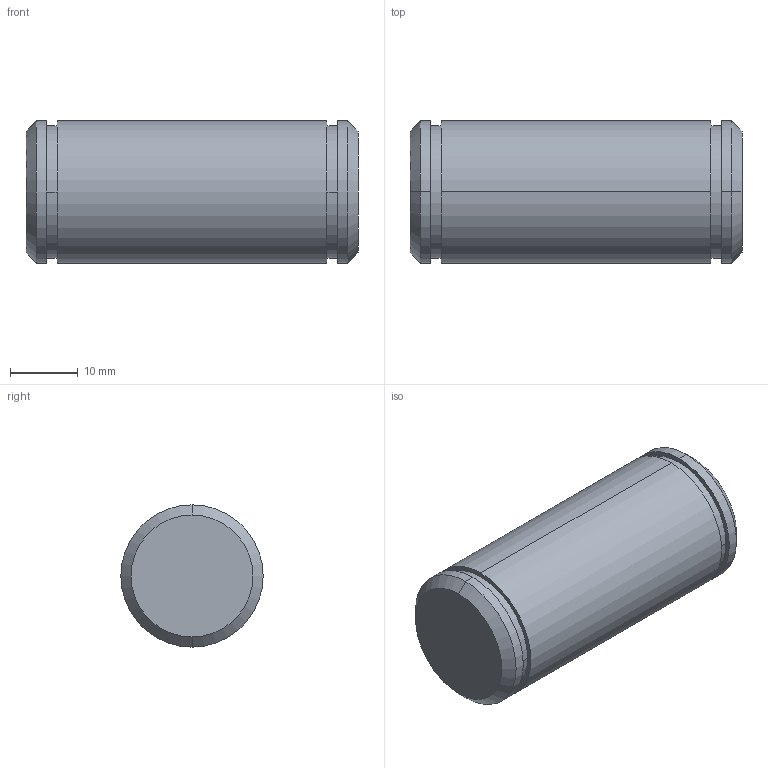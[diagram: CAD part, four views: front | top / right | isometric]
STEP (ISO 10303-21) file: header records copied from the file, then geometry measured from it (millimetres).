
FILE_DESCRIPTION (( 'STEP AP203' ), '1' );
FILE_NAME ('Bolzen Sicherungsring B M20.STEP', '2018-02-22T05:37:51', ( 'install' ), ( 'Hewlett-Packard Company' ), 'SwSTEP 2.0', 'SolidWorks 2017', '' );
FILE_SCHEMA (( 'CONFIG_CONTROL_DESIGN' ));
Length unit declared in the file: millimetre
Products named in the file (1): Bolzen Sicherungsring B M20
Bounding box: 49 x 21 x 21 mm (x, y, z)
Volume: 16687.4 mm3; surface area: 3968.1 mm2
Topology: 1 solids, 1 shells, 20 faces, 38 edges, 24 vertices
Faces by surface type: cylinder 10, plane 6, cone 4
Entity records: 591 total; most frequent: DIRECTION 104, CARTESIAN_POINT 83, ORIENTED_EDGE 76, AXIS2_PLACEMENT_3D 45, EDGE_CURVE 38, EDGE_LOOP 24, VERTEX_POINT 24, CIRCLE 24
